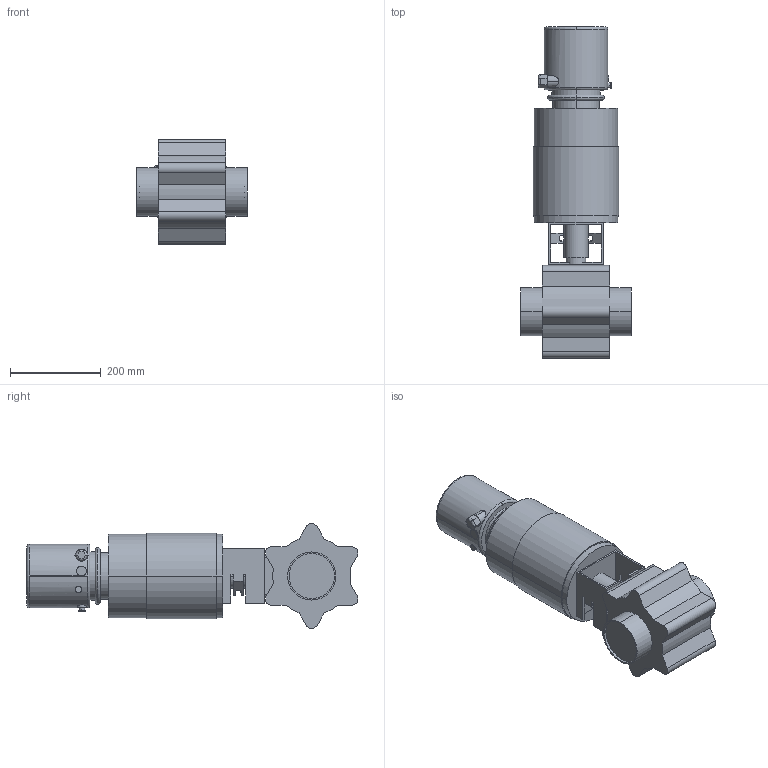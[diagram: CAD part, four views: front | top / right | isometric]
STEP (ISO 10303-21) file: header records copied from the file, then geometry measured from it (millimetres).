
FILE_DESCRIPTION(('Creo Elements/Direct Modeling STEP Export'),'2;1');
FILE_NAME('BLV1-100-NC-12S-CU4.stp','2019-05-09T14:41:40',(''),(''),'Creo Elements/Direct Modeling STEP processor for AP214 (Solid Model)','Creo Elements/Direct Modeling 19.0F 14-Feb-2017 (C) Parametric Technology GmbH','');
FILE_SCHEMA(('AUTOMOTIVE_DESIGN { 1 0 10303 214 1 1 1 1 }'));
Length unit declared in the file: millimetre
Products named in the file (2): BLV1-100-NC-12S-CU4
Assembly tree (1 placements, depth 2):
  BLV1-100-NC-12S-CU4
    BLV1-100-NC-12S-CU4
Bounding box: 243 x 731.7 x 231 mm (x, y, z)
Volume: 15087701 mm3; surface area: 578263 mm2
Topology: 1 solids, 2 shells, 254 faces, 661 edges, 434 vertices
Faces by surface type: plane 114, cylinder 97, extrusion 33, torus 10
Entity records: 11099 total; most frequent: CARTESIAN_POINT 5198, ORIENTED_EDGE 1324, DIRECTION 1053, EDGE_CURVE 662, VERTEX_POINT 434, VECTOR 361, AXIS2_PLACEMENT_3D 346, LINE 328
